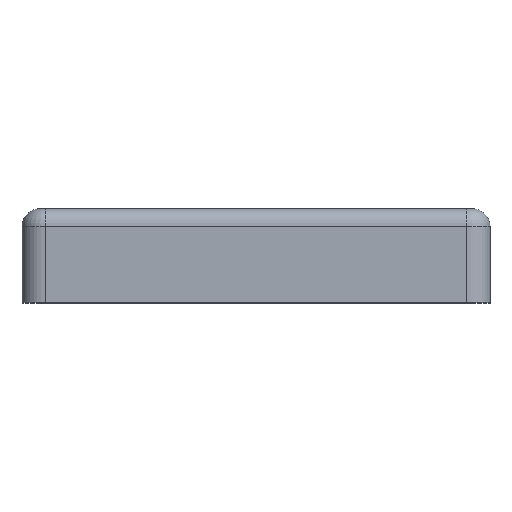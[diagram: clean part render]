
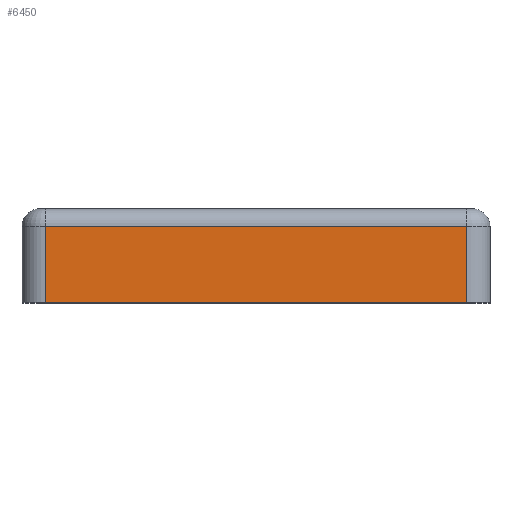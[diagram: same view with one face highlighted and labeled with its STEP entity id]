
A CAD part, top view. The second image highlights one B-rep face of the part: STEP entity #6450.
In plain terms, the highlighted planar face has unit normal (0, 0, 1).
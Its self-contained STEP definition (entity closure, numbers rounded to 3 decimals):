
#34 = LINE ( 'NONE', #4082, #3324 ) ;
#78 = PLANE ( 'NONE',  #2437 ) ;
#414 = DIRECTION ( 'NONE',  ( 1., 0., 0. ) ) ;
#1233 = VERTEX_POINT ( 'NONE', #4826 ) ;
#1252 = LINE ( 'NONE', #7162, #8110 ) ;
#1312 = ORIENTED_EDGE ( 'NONE', *, *, #1397, .T. ) ;
#1397 = EDGE_CURVE ( 'NONE', #4502, #6476, #2916, .T. ) ;
#1412 = CARTESIAN_POINT ( 'NONE',  ( -36., -8., 48. ) ) ;
#1502 = CARTESIAN_POINT ( 'NONE',  ( -40., 5., 48. ) ) ;
#2061 = DIRECTION ( 'NONE',  ( 0., 0., -1. ) ) ;
#2437 = AXIS2_PLACEMENT_3D ( 'NONE', #6687, #2061, #6711 ) ;
#2704 = VECTOR ( 'NONE', #7226, 1000. ) ;
#2769 = EDGE_CURVE ( 'NONE', #4502, #1233, #1252, .T. ) ;
#2916 = LINE ( 'NONE', #7499, #2704 ) ;
#2921 = DIRECTION ( 'NONE',  ( 0., 1., 0. ) ) ;
#3013 = FACE_OUTER_BOUND ( 'NONE', #5772, .T. ) ;
#3180 = EDGE_CURVE ( 'NONE', #1233, #5377, #7336, .T. ) ;
#3324 = VECTOR ( 'NONE', #7423, 1000. ) ;
#4082 = CARTESIAN_POINT ( 'NONE',  ( 36., 8., 48. ) ) ;
#4266 = ORIENTED_EDGE ( 'NONE', *, *, #2769, .F. ) ;
#4299 = ORIENTED_EDGE ( 'NONE', *, *, #7312, .F. ) ;
#4502 = VERTEX_POINT ( 'NONE', #1412 ) ;
#4826 = CARTESIAN_POINT ( 'NONE',  ( -36., 5., 48. ) ) ;
#5377 = VERTEX_POINT ( 'NONE', #6522 ) ;
#5772 = EDGE_LOOP ( 'NONE', ( #4266, #1312, #4299, #7432 ) ) ;
#6068 = CARTESIAN_POINT ( 'NONE',  ( 36., -8., 48. ) ) ;
#6450 = ADVANCED_FACE ( 'NONE', ( #3013 ), #78, .F. ) ;
#6476 = VERTEX_POINT ( 'NONE', #6068 ) ;
#6522 = CARTESIAN_POINT ( 'NONE',  ( 36., 5., 48. ) ) ;
#6687 = CARTESIAN_POINT ( 'NONE',  ( 40., 8., 48. ) ) ;
#6711 = DIRECTION ( 'NONE',  ( 0., 1., 0. ) ) ;
#7162 = CARTESIAN_POINT ( 'NONE',  ( -36., 8., 48. ) ) ;
#7226 = DIRECTION ( 'NONE',  ( 1., 0., 0. ) ) ;
#7312 = EDGE_CURVE ( 'NONE', #5377, #6476, #34, .T. ) ;
#7336 = LINE ( 'NONE', #1502, #7552 ) ;
#7423 = DIRECTION ( 'NONE',  ( 0., -1., 0. ) ) ;
#7432 = ORIENTED_EDGE ( 'NONE', *, *, #3180, .F. ) ;
#7499 = CARTESIAN_POINT ( 'NONE',  ( 40., -8., 48. ) ) ;
#7552 = VECTOR ( 'NONE', #414, 1000. ) ;
#8110 = VECTOR ( 'NONE', #2921, 1000. ) ;
